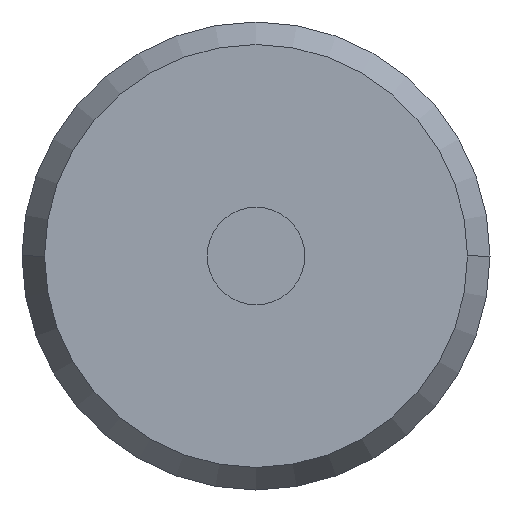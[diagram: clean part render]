
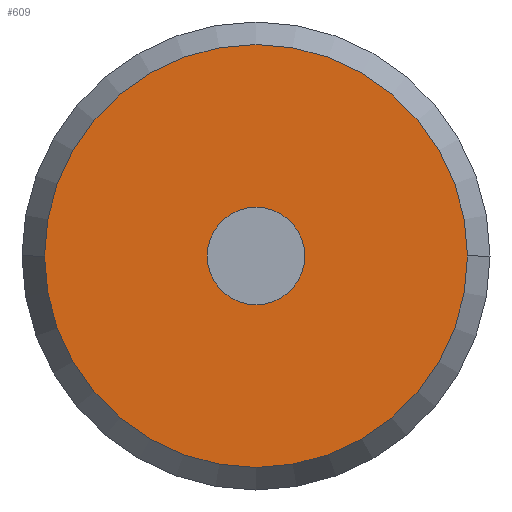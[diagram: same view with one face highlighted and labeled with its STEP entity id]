
A CAD part, front view. The second image highlights one B-rep face of the part: STEP entity #609.
In plain terms, the highlighted planar face has unit normal (0, -1, 0) as drawn and (0, 1, 0) by its records, which use the part's own axes.
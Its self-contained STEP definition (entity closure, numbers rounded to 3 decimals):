
#3 = CARTESIAN_POINT ( 'NONE',  ( 0., 7.53, 0. ) ) ;
#7 = DIRECTION ( 'NONE',  ( 0., 1., 0. ) ) ;
#28 = CARTESIAN_POINT ( 'NONE',  ( -5.423, 7.53, 0. ) ) ;
#68 = FACE_BOUND ( 'NONE', #253, .T. ) ;
#74 = PLANE ( 'NONE',  #557 ) ;
#81 = CIRCLE ( 'NONE', #612, 1.25 ) ;
#136 = AXIS2_PLACEMENT_3D ( 'NONE', #337, #167, #377 ) ;
#137 = CIRCLE ( 'NONE', #622, 5.423 ) ;
#152 = VERTEX_POINT ( 'NONE', #28 ) ;
#162 = DIRECTION ( 'NONE',  ( 0., 1., 0. ) ) ;
#167 = DIRECTION ( 'NONE',  ( 0., 1., 0. ) ) ;
#210 = CIRCLE ( 'NONE', #597, 5.423 ) ;
#225 = VERTEX_POINT ( 'NONE', #648 ) ;
#226 = CARTESIAN_POINT ( 'NONE',  ( 5.423, 7.53, 0. ) ) ;
#253 = EDGE_LOOP ( 'NONE', ( #346, #583 ) ) ;
#260 = CARTESIAN_POINT ( 'NONE',  ( 0., 7.53, -1.25 ) ) ;
#273 = CARTESIAN_POINT ( 'NONE',  ( 0., 7.53, 0. ) ) ;
#309 = EDGE_CURVE ( 'NONE', #402, #225, #311, .T. ) ;
#311 = CIRCLE ( 'NONE', #136, 1.25 ) ;
#314 = EDGE_LOOP ( 'NONE', ( #607, #472 ) ) ;
#315 = CARTESIAN_POINT ( 'NONE',  ( 0., 7.53, 0. ) ) ;
#337 = CARTESIAN_POINT ( 'NONE',  ( 0., 7.53, 0. ) ) ;
#346 = ORIENTED_EDGE ( 'NONE', *, *, #423, .F. ) ;
#372 = DIRECTION ( 'NONE',  ( 0., 0., 1. ) ) ;
#377 = DIRECTION ( 'NONE',  ( 0., 0., 1. ) ) ;
#387 = DIRECTION ( 'NONE',  ( -1., 0., 0. ) ) ;
#402 = VERTEX_POINT ( 'NONE', #260 ) ;
#405 = EDGE_CURVE ( 'NONE', #152, #514, #137, .T. ) ;
#418 = DIRECTION ( 'NONE',  ( -1., 0., 0. ) ) ;
#423 = EDGE_CURVE ( 'NONE', #225, #402, #81, .T. ) ;
#472 = ORIENTED_EDGE ( 'NONE', *, *, #405, .T. ) ;
#491 = DIRECTION ( 'NONE',  ( -1., 0., 0. ) ) ;
#492 = EDGE_CURVE ( 'NONE', #514, #152, #210, .T. ) ;
#514 = VERTEX_POINT ( 'NONE', #226 ) ;
#557 = AXIS2_PLACEMENT_3D ( 'NONE', #273, #626, #491 ) ;
#570 = CARTESIAN_POINT ( 'NONE',  ( 0., 7.53, 0. ) ) ;
#574 = DIRECTION ( 'NONE',  ( 0., 1., 0. ) ) ;
#583 = ORIENTED_EDGE ( 'NONE', *, *, #309, .F. ) ;
#597 = AXIS2_PLACEMENT_3D ( 'NONE', #315, #7, #387 ) ;
#607 = ORIENTED_EDGE ( 'NONE', *, *, #492, .T. ) ;
#609 = ADVANCED_FACE ( 'NONE', ( #68, #641 ), #74, .T. ) ;
#612 = AXIS2_PLACEMENT_3D ( 'NONE', #570, #574, #372 ) ;
#622 = AXIS2_PLACEMENT_3D ( 'NONE', #3, #162, #418 ) ;
#626 = DIRECTION ( 'NONE',  ( 0., 1., 0. ) ) ;
#641 = FACE_OUTER_BOUND ( 'NONE', #314, .T. ) ;
#648 = CARTESIAN_POINT ( 'NONE',  ( 0., 7.53, 1.25 ) ) ;
